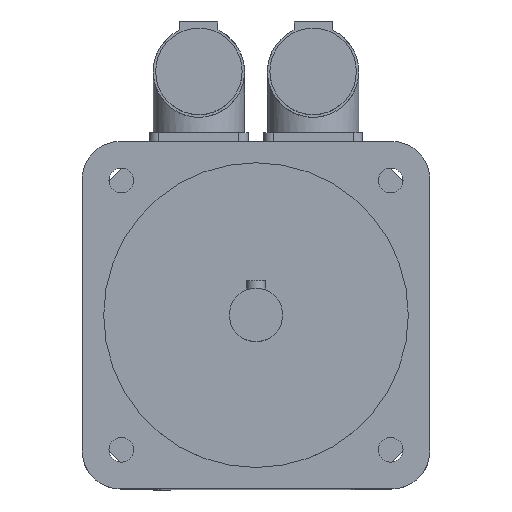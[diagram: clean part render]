
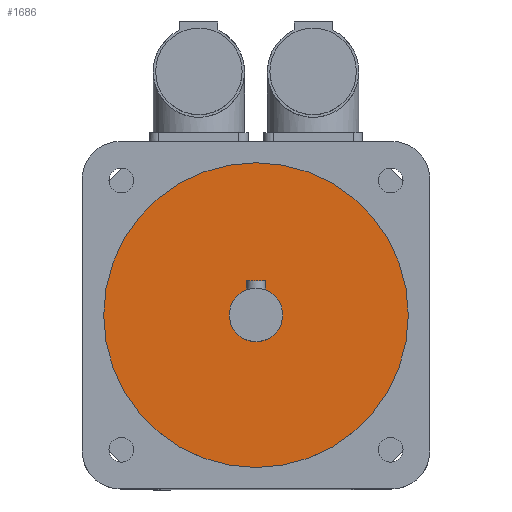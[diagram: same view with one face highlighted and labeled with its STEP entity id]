
A CAD part, top view. The second image highlights one B-rep face of the part: STEP entity #1686.
In plain terms, the highlighted planar face has unit normal (0, 0, 1).
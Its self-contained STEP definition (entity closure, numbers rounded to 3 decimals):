
#28=FACE_BOUND('',#305,.T.);
#53=CIRCLE('',#1788,7.);
#54=CIRCLE('',#1791,40.);
#202=FACE_OUTER_BOUND('',#304,.T.);
#304=EDGE_LOOP('',(#1158));
#305=EDGE_LOOP('',(#1159));
#718=VERTEX_POINT('',#2569);
#719=VERTEX_POINT('',#2573);
#892=EDGE_CURVE('',#718,#718,#53,.T.);
#893=EDGE_CURVE('',#719,#719,#54,.T.);
#1158=ORIENTED_EDGE('',*,*,#893,.T.);
#1159=ORIENTED_EDGE('',*,*,#892,.T.);
#1633=PLANE('',#1793);
#1686=ADVANCED_FACE('',(#202,#28),#1633,.T.);
#1788=AXIS2_PLACEMENT_3D('',#2570,#2000,#2001);
#1791=AXIS2_PLACEMENT_3D('',#2574,#2006,#2007);
#1793=AXIS2_PLACEMENT_3D('',#2577,#2010,#2011);
#2000=DIRECTION('center_axis',(0.,0.,-1.));
#2001=DIRECTION('ref_axis',(-1.,0.,0.));
#2006=DIRECTION('center_axis',(0.,0.,1.));
#2007=DIRECTION('ref_axis',(-1.,0.,0.));
#2010=DIRECTION('center_axis',(0.,0.,1.));
#2011=DIRECTION('ref_axis',(1.,0.,0.));
#2569=CARTESIAN_POINT('',(7.,0.,130.));
#2570=CARTESIAN_POINT('Origin',(0.,0.,130.));
#2573=CARTESIAN_POINT('',(40.,0.,130.));
#2574=CARTESIAN_POINT('Origin',(0.,0.,130.));
#2577=CARTESIAN_POINT('Origin',(0.,0.,
130.));
